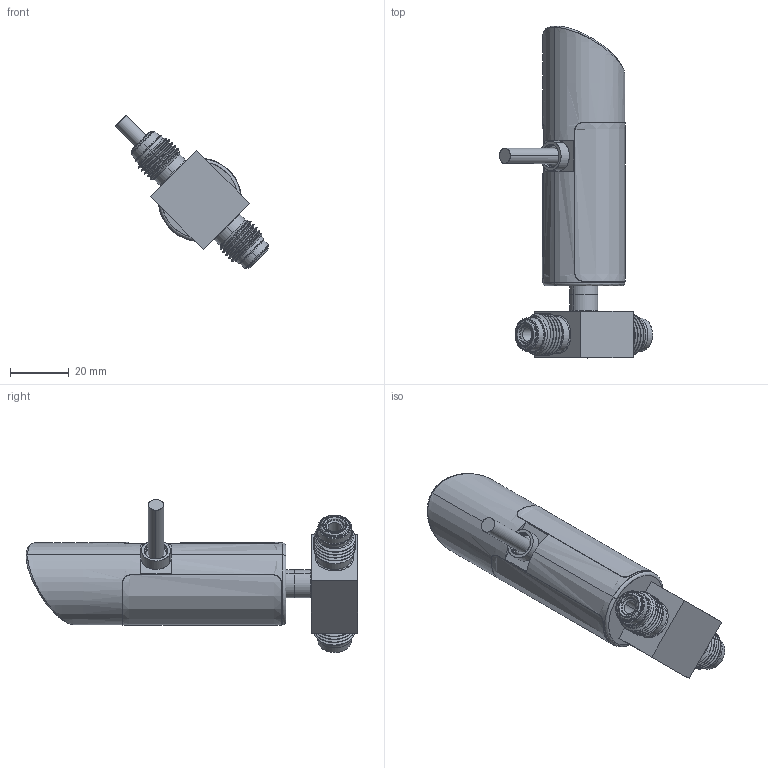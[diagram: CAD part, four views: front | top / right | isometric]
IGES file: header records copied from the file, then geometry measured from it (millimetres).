
Start section: SolidWorks IGES file using analytic representation for surfaces
Global section: file name: R:\Brooks Instrument\25-0024 SSII CAD File Generation\Client Files\SSII CAD Models for Website\CAD for Brooks Website\Example\GRF\GRF-XXXXXX-P-XXX-VM\IGES\GRF-XXXXXX-P-XXX-VM.IGS; native system: SolidWorks 2023; preprocessor: SolidWorks 2023; author: dgoddard; date: 250625.122601; units: inch
Bounding box: 52.19 x 113.13 x 52.19 mm (x, y, z)
Surface area: 16823 mm2 (no closed solid volume)
Topology: 0 solids, 0 shells, 1214 faces, 10434 edges, 10432 vertices
Faces by surface type: bspline 1060, revolution 154
